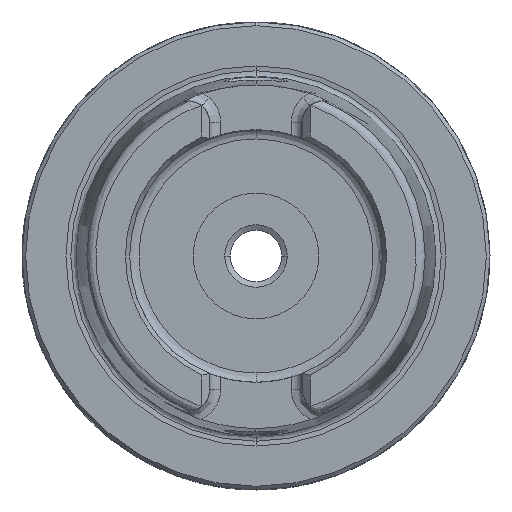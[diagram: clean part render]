
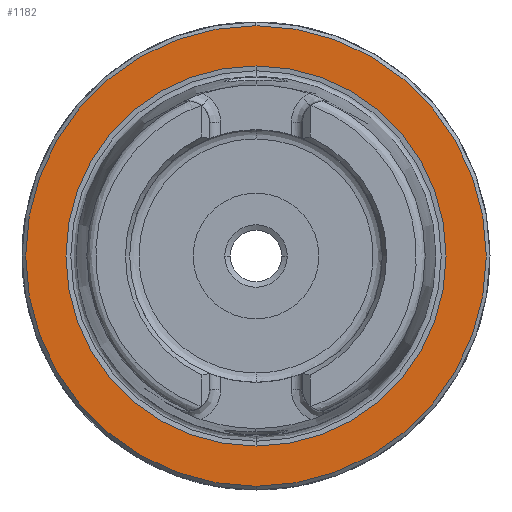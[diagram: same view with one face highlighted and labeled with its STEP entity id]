
A CAD part, left-side view. The second image highlights one B-rep face of the part: STEP entity #1182.
In plain terms, the highlighted planar face has unit normal (-1, 0, 0).
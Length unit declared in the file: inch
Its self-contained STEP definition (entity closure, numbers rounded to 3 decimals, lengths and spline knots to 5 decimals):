
#20 = DIRECTION ( 'NONE',  ( 0., 0., 1. ) ) ;
#28 = EDGE_CURVE ( 'NONE', #2689, #2609, #3292, .T. ) ;
#444 = DIRECTION ( 'NONE',  ( 0., 0., -1. ) ) ;
#552 = DIRECTION ( 'NONE',  ( 0., 0., 1. ) ) ;
#764 = PLANE ( 'NONE',  #8332 ) ;
#989 = CIRCLE ( 'NONE', #8195, 1.22047 ) ;
#1030 = EDGE_CURVE ( 'NONE', #2609, #2689, #989, .T. ) ;
#1182 = ADVANCED_FACE ( 'NONE', ( #7055, #8381 ), #764, .T. ) ;
#1350 = DIRECTION ( 'NONE',  ( -1., 0., 0. ) ) ;
#1604 = ORIENTED_EDGE ( 'NONE', *, *, #6741, .T. ) ;
#1730 = DIRECTION ( 'NONE',  ( 1., 0., 0. ) ) ;
#2266 = ORIENTED_EDGE ( 'NONE', *, *, #28, .F. ) ;
#2316 = VERTEX_POINT ( 'NONE', #4260 ) ;
#2609 = VERTEX_POINT ( 'NONE', #5148 ) ;
#2627 = VERTEX_POINT ( 'NONE', #7754 ) ;
#2689 = VERTEX_POINT ( 'NONE', #3521 ) ;
#2888 = EDGE_LOOP ( 'NONE', ( #4230, #2266 ) ) ;
#3292 = CIRCLE ( 'NONE', #3419, 1.22047 ) ;
#3419 = AXIS2_PLACEMENT_3D ( 'NONE', #5522, #8135, #6719 ) ;
#3441 = CARTESIAN_POINT ( 'NONE',  ( 0., 0., 0. ) ) ;
#3521 = CARTESIAN_POINT ( 'NONE',  ( 0., 0., 1.22047 ) ) ;
#3759 = DIRECTION ( 'NONE',  ( 1., 0., 0. ) ) ;
#3994 = CARTESIAN_POINT ( 'NONE',  ( 0., 1.22047, 0. ) ) ;
#4230 = ORIENTED_EDGE ( 'NONE', *, *, #1030, .F. ) ;
#4260 = CARTESIAN_POINT ( 'NONE',  ( 0., 0., -1.0074 ) ) ;
#4427 = CARTESIAN_POINT ( 'NONE',  ( 0., 0., 0. ) ) ;
#4604 = DIRECTION ( 'NONE',  ( 1., 0., 0. ) ) ;
#5144 = ORIENTED_EDGE ( 'NONE', *, *, #7328, .T. ) ;
#5148 = CARTESIAN_POINT ( 'NONE',  ( 0., 0., -1.22047 ) ) ;
#5270 = EDGE_LOOP ( 'NONE', ( #1604, #5144 ) ) ;
#5302 = CIRCLE ( 'NONE', #5426, 1.0074 ) ;
#5426 = AXIS2_PLACEMENT_3D ( 'NONE', #3441, #4604, #7160 ) ;
#5522 = CARTESIAN_POINT ( 'NONE',  ( 0., 0., 0. ) ) ;
#6520 = AXIS2_PLACEMENT_3D ( 'NONE', #6996, #3759, #552 ) ;
#6719 = DIRECTION ( 'NONE',  ( 0., 0., -1. ) ) ;
#6741 = EDGE_CURVE ( 'NONE', #2627, #2316, #7752, .T. ) ;
#6996 = CARTESIAN_POINT ( 'NONE',  ( 0., 0., 0. ) ) ;
#7055 = FACE_BOUND ( 'NONE', #5270, .T. ) ;
#7160 = DIRECTION ( 'NONE',  ( 0., 0., 1. ) ) ;
#7328 = EDGE_CURVE ( 'NONE', #2316, #2627, #5302, .T. ) ;
#7752 = CIRCLE ( 'NONE', #6520, 1.0074 ) ;
#7754 = CARTESIAN_POINT ( 'NONE',  ( 0., 0., 1.0074 ) ) ;
#8135 = DIRECTION ( 'NONE',  ( 1., 0., 0. ) ) ;
#8195 = AXIS2_PLACEMENT_3D ( 'NONE', #4427, #1730, #444 ) ;
#8332 = AXIS2_PLACEMENT_3D ( 'NONE', #3994, #1350, #20 ) ;
#8381 = FACE_OUTER_BOUND ( 'NONE', #2888, .T. ) ;
